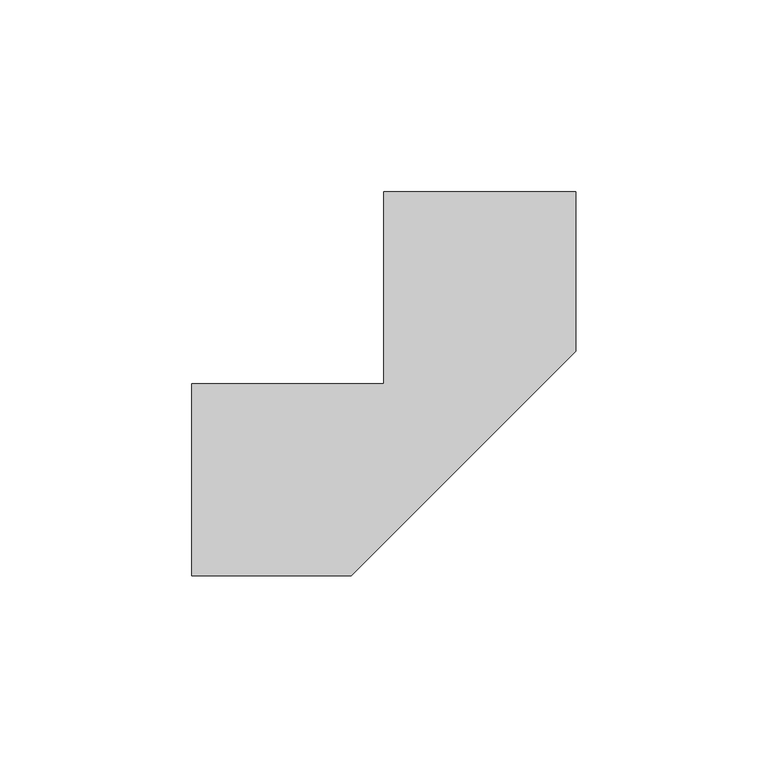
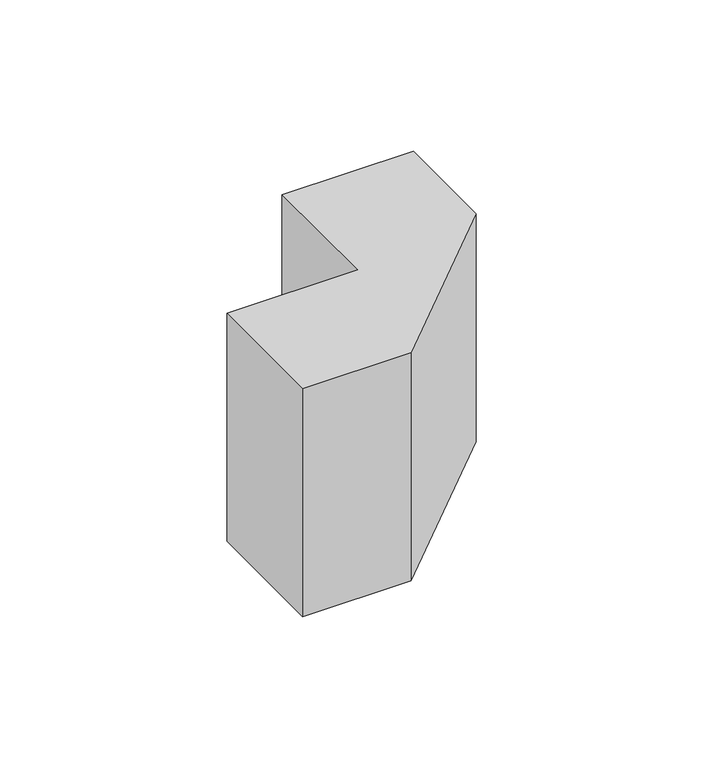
"""IFC4 building model written with IfcOpenShell, lengths in millimetres: duct fitting geometry, КНС_УголВнешний_DKC : Угол внешний."""

from ifc_helpers import new_model, si_unit, frame, origin, place, context, project, spatial, polyline, outline, extrude, source, transform, mapped, element, save


def duct_fitting_472e6830(model_context):
    return source(origin(), model_context, "Body", "SweptSolid", [
        extrude(outline(polyline([(-75.0, -25.0), (-75.0, 25.0), (-25.0, 25.0), (-25.0, 75.0), (25.0, 75.0), (25.0, 33.5786438), (-33.5786438, -25.0), (-75.0, -25.0)])), frame((0.0, 0.0, -46.0), z_axis=(0.0, 0.0, 1.0), x_axis=(1.0, 0.0, 0.0)), (0.0, 0.0, 1.0), 92.0),
    ])


if __name__ == "__main__":
    model = new_model("IFC4")
    model_context = context("Model", 3, world=origin())
    ifc_project = project(units=[si_unit("LENGTHUNIT", "METRE", prefix="MILLI")], contexts=[model_context])
    site = spatial("IfcSite", under=ifc_project)
    building = spatial("IfcBuilding", under=site)
    placement = place(None, origin())
    duct_fitting_shape = duct_fitting_472e6830(model_context)
    element("IfcDuctFitting", 1, ObjectType="КНС_УголВнешний_DKC : Угол внешний", at=placement, inside=building, context=model_context, shape_type="MappedRepresentation", body=[
        mapped(duct_fitting_shape, transform((0.0, 0.0, 0.0), x_axis=(1.0, 0.0, 0.0), y_axis=(0.0, 1.0, 0.0), z_axis=(0.0, 0.0, 1.0))),
    ])
    save(model, "model.ifc")
